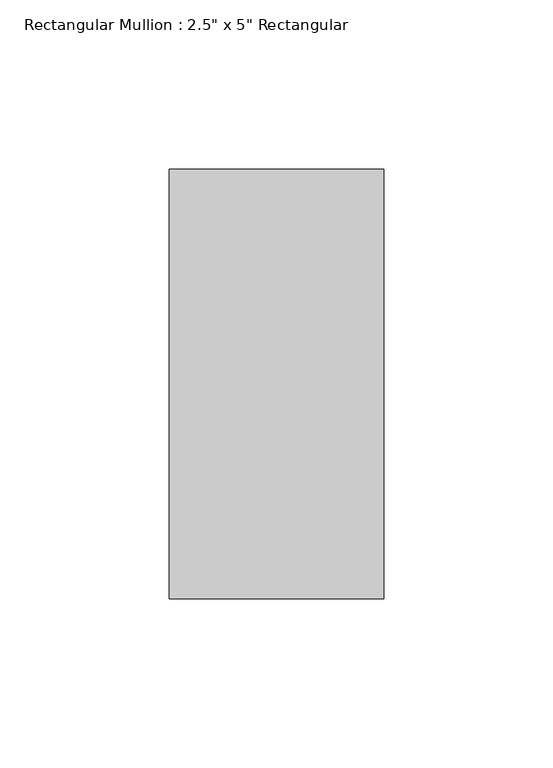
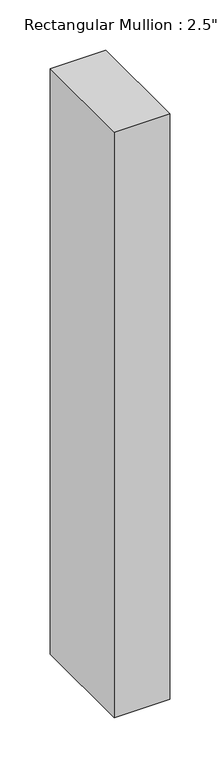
"""IFC4 building model written with IfcOpenShell, lengths in millimetres: member geometry."""

from ifc_helpers import new_model, si_unit, frame, origin, place, context, project, spatial, polyline, outline, extrude, source, transform, mapped, element, save


def member_338de68b(model_context):
    return source(origin(), model_context, "Body", "SweptSolid", [
        extrude(outline(polyline([(0.0, 63.5), (0.0, -63.5), (-63.5, -63.5), (-63.5, 63.5), (0.0, 63.5)])), frame((0.0, 0.0, -710.5), z_axis=(0.0, 0.0, 1.0), x_axis=(1.0, 0.0, 0.0)), (0.0, 0.0, 1.0), 710.5),
    ])


if __name__ == "__main__":
    model = new_model("IFC4")
    model_context = context("Model", 3, world=origin())
    ifc_project = project(units=[si_unit("LENGTHUNIT", "METRE", prefix="MILLI")], contexts=[model_context])
    site = spatial("IfcSite", under=ifc_project)
    building = spatial("IfcBuilding", under=site)
    placement = place(None, origin())
    member_shape = member_338de68b(model_context)
    element("IfcMember", 1, ObjectType="Rectangular Mullion : 2.5\" x 5\" Rectangular", at=placement, inside=building, context=model_context, shape_type="MappedRepresentation", body=[
        mapped(member_shape, transform((0.0, 0.0, 0.0), x_axis=(1.0, 0.0, 0.0), y_axis=(0.0, 1.0, 0.0), z_axis=(0.0, 0.0, 1.0))),
    ])
    save(model, "model.ifc")
